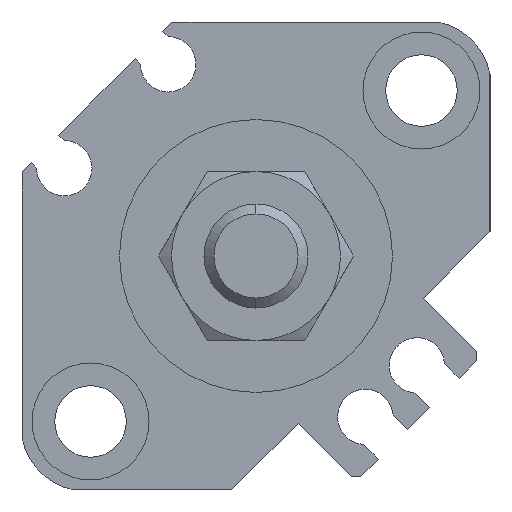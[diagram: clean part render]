
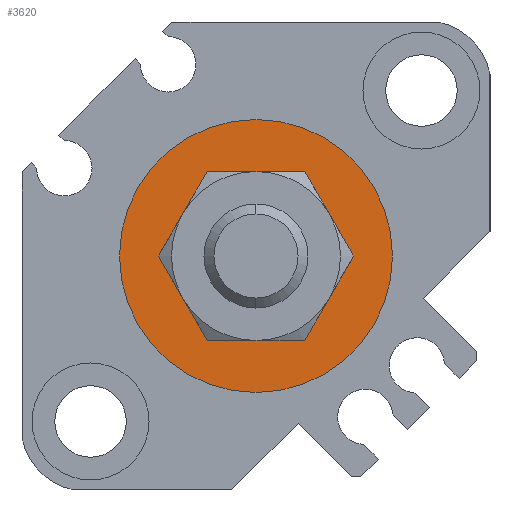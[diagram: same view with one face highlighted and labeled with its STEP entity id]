
A CAD part, left-side view. The second image highlights one B-rep face of the part: STEP entity #3620.
In plain terms, the highlighted planar face has unit normal (-1, 0, 0).
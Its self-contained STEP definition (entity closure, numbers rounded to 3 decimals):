
#27 = CARTESIAN_POINT ( 'NONE',  ( 1.6, 0., 0. ) ) ;
#58 = DIRECTION ( 'NONE',  ( 0., 1., 0. ) ) ;
#61 = CARTESIAN_POINT ( 'NONE',  ( 1.6, 0., 0. ) ) ;
#136 = DIRECTION ( 'NONE',  ( 1., 0., 0. ) ) ;
#146 = AXIS2_PLACEMENT_3D ( 'NONE', #628, #1849, #2204 ) ;
#488 = AXIS2_PLACEMENT_3D ( 'NONE', #27, #1688, #58 ) ;
#628 = CARTESIAN_POINT ( 'NONE',  ( 1.6, 0., 0. ) ) ;
#687 = CARTESIAN_POINT ( 'NONE',  ( 1.6, 0., 0. ) ) ;
#715 = DIRECTION ( 'NONE',  ( 1., 0., 0. ) ) ;
#787 = CIRCLE ( 'NONE', #2951, 6.5 ) ;
#824 = AXIS2_PLACEMENT_3D ( 'NONE', #687, #715, #4060 ) ;
#918 = CARTESIAN_POINT ( 'NONE',  ( 1.6, 0., 0. ) ) ;
#1050 = ORIENTED_EDGE ( 'NONE', *, *, #1341, .T. ) ;
#1341 = EDGE_CURVE ( 'NONE', #2438, #3983, #787, .T. ) ;
#1382 = DIRECTION ( 'NONE',  ( 0., 0., -1. ) ) ;
#1688 = DIRECTION ( 'NONE',  ( 1., 0., 0. ) ) ;
#1849 = DIRECTION ( 'NONE',  ( 1., 0., 0. ) ) ;
#1923 = CARTESIAN_POINT ( 'NONE',  ( 1.6, 0., -10.5 ) ) ;
#1967 = CARTESIAN_POINT ( 'NONE',  ( 1.6, 0., 6.5 ) ) ;
#2128 = CIRCLE ( 'NONE', #5165, 6.5 ) ;
#2204 = DIRECTION ( 'NONE',  ( 0., 0., -1. ) ) ;
#2214 = CARTESIAN_POINT ( 'NONE',  ( 1.6, 0., 10.5 ) ) ;
#2270 = VERTEX_POINT ( 'NONE', #1923 ) ;
#2438 = VERTEX_POINT ( 'NONE', #1967 ) ;
#2623 = FACE_OUTER_BOUND ( 'NONE', #4540, .T. ) ;
#2635 = ORIENTED_EDGE ( 'NONE', *, *, #4502, .F. ) ;
#2725 = ORIENTED_EDGE ( 'NONE', *, *, #3925, .T. ) ;
#2951 = AXIS2_PLACEMENT_3D ( 'NONE', #61, #136, #1382 ) ;
#3149 = CIRCLE ( 'NONE', #824, 10.5 ) ;
#3380 = DIRECTION ( 'NONE',  ( 1., 0., 0. ) ) ;
#3620 = ADVANCED_FACE ( 'NONE', ( #2623, #4284 ), #3770, .F. ) ;
#3688 = CIRCLE ( 'NONE', #146, 10.5 ) ;
#3770 = PLANE ( 'NONE',  #488 ) ;
#3925 = EDGE_CURVE ( 'NONE', #3983, #2438, #2128, .T. ) ;
#3950 = EDGE_LOOP ( 'NONE', ( #1050, #2725 ) ) ;
#3983 = VERTEX_POINT ( 'NONE', #4616 ) ;
#4060 = DIRECTION ( 'NONE',  ( 0., 0., -1. ) ) ;
#4174 = EDGE_CURVE ( 'NONE', #5267, #2270, #3149, .T. ) ;
#4284 = FACE_BOUND ( 'NONE', #3950, .T. ) ;
#4502 = EDGE_CURVE ( 'NONE', #2270, #5267, #3688, .T. ) ;
#4540 = EDGE_LOOP ( 'NONE', ( #4611, #2635 ) ) ;
#4611 = ORIENTED_EDGE ( 'NONE', *, *, #4174, .F. ) ;
#4616 = CARTESIAN_POINT ( 'NONE',  ( 1.6, 0., -6.5 ) ) ;
#5102 = DIRECTION ( 'NONE',  ( 0., 0., -1. ) ) ;
#5165 = AXIS2_PLACEMENT_3D ( 'NONE', #918, #3380, #5102 ) ;
#5267 = VERTEX_POINT ( 'NONE', #2214 ) ;
